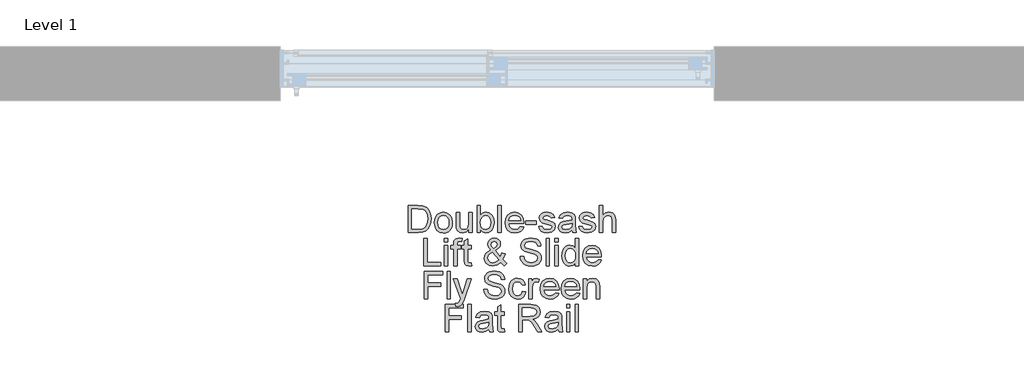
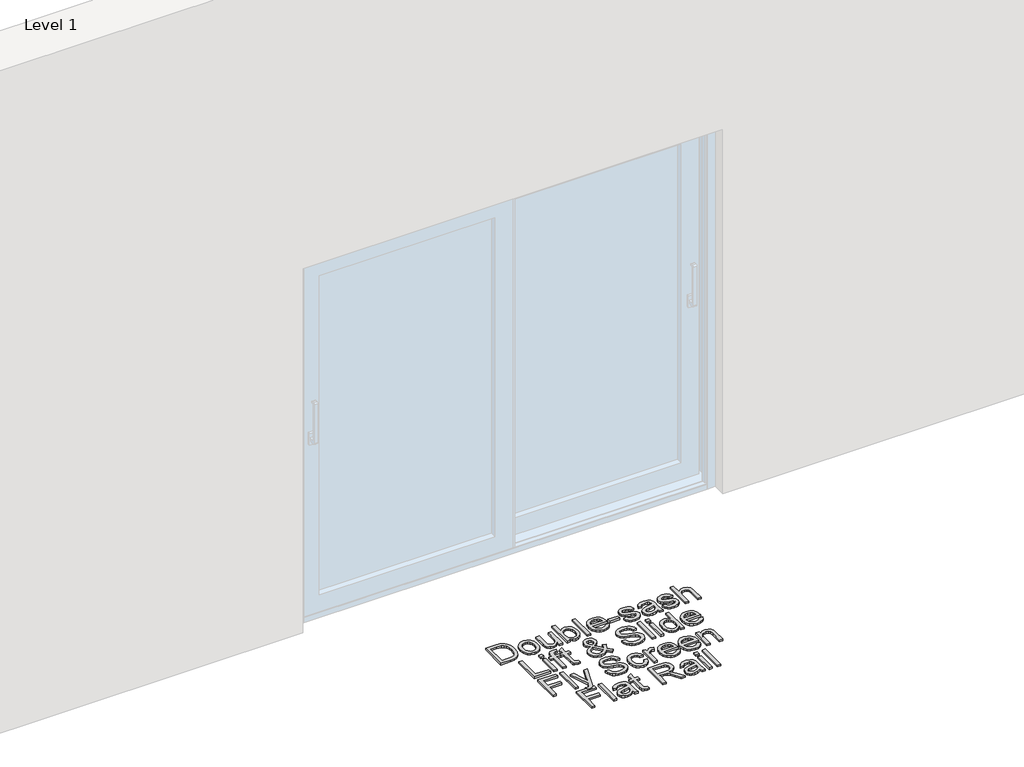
# One storey, part 3 of 7: 1 proxy.
"""IFC4 building model written with IfcOpenShell, lengths in millimetres."""

from ifc_helpers import new_model, si_unit, origin, origin_with_axes, place, context, project, spatial, polyline, outline, extrude, element, save

model = new_model("IFC4")

# Units and contexts
model_context = context("Model", 3, world=origin())
ifc_project = project(units=[si_unit("LENGTHUNIT", "METRE", prefix="MILLI")], contexts=[model_context])

# Site, building, storey
site = spatial("IfcSite", under=ifc_project)
building = spatial("IfcBuilding", under=site)
storey = spatial("IfcBuildingStorey", under=building, Name="Level 1", Elevation=0.0)

# Proxy
placement = place(None, origin())
element("IfcBuildingElementProxy", 1, Name="150mm Arial", ObjectType="150mm Arial", at=placement, inside=storey, context=model_context, shape_type="SweptSolid", body=[
    extrude(outline(polyline([(2688.4009515, -897.6627533), (2688.4009515, -746.9782881), (2740.3826774, -746.9782881), (2767.2748513, -749.1487919), (2789.4213474, -759.9277343), (2799.8416049, -771.4056526), (2807.2636242, -785.679474), (2811.7057993, -802.4732871), (2813.1865243, -821.5111803), (2809.1766105, -851.9166272), (2798.8759147, -873.8607883), (2785.1171281, -887.5276044), (2767.1093044, -895.0875794), (2742.884275, -897.6627533), (2688.4009515, -897.6627533)]), holes=[polyline([(2707.2365097, -878.8271952), (2740.5666184, -878.8271952), (2764.8100419, -876.1048684), (2778.7895577, -868.4161347), (2790.2490819, -849.7093353), (2794.3509661, -821.2168747), (2792.3414107, -800.6890594), (2786.3127445, -785.5323212), (2777.4054017, -775.1212607), (2766.7598165, -768.8304786), (2740.0515836, -765.8138463), (2707.2365097, -765.8138463), (2707.2365097, -878.8271952)])]), origin_with_axes(), (0.0, 0.0, 1.0), 10.0),
    extrude(outline(polyline([(2832.0220824, -842.3333013), (2836.0963755, -815.6526596), (2848.3192548, -796.8998749), (2863.4208107, -787.712022), (2881.5022108, -784.6494044), (2901.2896636, -788.3788081), (2917.0947938, -799.5670193), (2927.4552705, -817.3311212), (2930.9087627, -840.7881969), (2929.3820525, -859.8168931), (2924.8019216, -874.3022466), (2917.3017274, -885.150167), (2907.0148272, -893.2665635), (2894.7965464, -898.3295395), (2881.5022108, -900.0171981), (2861.4756347, -896.30159), (2845.6888986, -885.1547655), (2835.4387865, -867.0181831), (2832.0220824, -842.3333013)]), holes=[polyline([(2850.8576406, -842.2965131), (2853.0373414, -859.343245), (2859.5764439, -871.4879494), (2869.4172873, -878.7582173), (2881.5022108, -881.18164), (2893.531952, -878.7444217), (2903.3544013, -871.4327671), (2909.8935038, -859.1271143), (2912.0732046, -841.7079019), (2909.8797082, -825.1578106), (2903.299219, -813.1786531), (2893.4629742, -805.9083852), (2881.5022108, -803.4849626), (2869.4172873, -805.8991882), (2859.5764439, -813.141865), (2853.0373414, -825.2589782), (2850.8576406, -842.2965131)])]), origin_with_axes(), (0.0, 0.0, 1.0), 10.0),
    extrude(outline(polyline([(3022.7321087, -897.6627533), (3022.7321087, -878.6432542), (3007.9800407, -894.6737121), (2988.7398124, -900.0171981), (2971.0262943, -896.2648018), (2958.8126121, -886.8470227), (2953.2024117, -872.9778715), (2952.0987657, -855.4666885), (2952.0987657, -787.0038492), (2970.9343238, -787.0038492), (2970.9343238, -846.6007324), (2972.074758, -865.8041726), (2979.5243684, -877.0797557), (2993.5590665, -881.18164), (3009.2860218, -876.9877852), (3019.6786882, -865.5650493), (3022.7321087, -844.5773814), (3022.7321087, -787.0038492), (3041.5676669, -787.0038492), (3041.5676669, -897.6627533), (3022.7321087, -897.6627533)])), origin_with_axes(), (0.0, 0.0, 1.0), 10.0),
    extrude(outline(polyline([(3086.3021175, -897.6627533), (3067.4665594, -897.6627533), (3067.4665594, -746.9782881), (3086.3021175, -746.9782881), (3086.3021175, -802.8595632), (3099.490687, -789.2019441), (3115.8798299, -784.6494044), (3134.7521763, -788.7512887), (3149.3938797, -800.2843892), (3158.3885945, -818.2186365), (3161.6443501, -840.6778323), (3158.2736313, -865.8225667), (3148.161475, -884.5293661), (3133.322035, -896.1452401), (3115.7694653, -900.0171981), (3099.0216375, -895.0232), (3086.3021175, -880.0412058), (3086.3021175, -897.6627533)]), holes=[polyline([(3086.3021175, -841.5607491), (3087.5897045, -857.2693103), (3091.4524654, -867.9010999), (3101.3209, -877.861505), (3114.1507845, -881.18164), (3125.0216975, -878.7352247), (3134.3107179, -871.3959789), (3140.6842734, -859.2098878), (3142.808792, -842.2229367), (3140.7716454, -824.9876652), (3134.6602058, -812.9395299), (3125.6608925, -805.8486044), (3114.9601249, -803.4849626), (3104.089212, -805.9313778), (3094.8001916, -813.2706236), (3088.426636, -825.2359855), (3086.3021175, -841.5607491)])]), origin_with_axes(), (0.0, 0.0, 1.0), 10.0),
    extrude(outline(polyline([(3182.834353, -897.6627533), (3182.834353, -746.9782881), (3201.6699112, -746.9782881), (3201.6699112, -897.6627533), (3182.834353, -897.6627533)])), origin_with_axes(), (0.0, 0.0, 1.0), 10.0),
    extrude(outline(polyline([(3307.3991966, -864.7005266), (3325.8668728, -867.0549713), (3319.2128072, -880.9701078), (3308.5948131, -891.3719712), (3294.2520138, -897.8558914), (3276.4235326, -900.0171981), (3254.3230218, -896.2877944), (3237.3176765, -885.0995832), (3226.4743547, -867.1791315), (3222.8599141, -843.2530063), (3226.5111429, -818.5221391), (3237.4648293, -800.0268718), (3254.2402483, -788.4937713), (3275.3566748, -784.6494044), (3295.8155123, -788.4845742), (3312.1632684, -799.9900836), (3322.8824301, -818.4485627), (3326.455484, -843.1426417), (3326.3451194, -848.2194132), (3241.6954723, -848.2194132), (3244.9558265, -862.3184907), (3252.529597, -872.6835659), (3263.4602908, -879.0571214), (3276.7914146, -881.18164), (3295.2590908, -877.2453026), (3307.3991966, -864.7005266)]), holes=[polyline([(3241.6954723, -829.383855), (3307.6199258, -829.383855), (3305.072343, -819.4326471), (3300.0783449, -812.3141305), (3289.0970674, -805.6922545), (3275.2830984, -803.4849626), (3262.5865711, -805.2461976), (3252.0881386, -810.5299028), (3244.7902796, -818.765861), (3241.6954723, -829.383855)])]), origin_with_axes(), (0.0, 0.0, 1.0), 10.0),
    extrude(outline(polyline([(3335.873263, -852.9283027), (3335.873263, -834.0927446), (3394.7343823, -834.0927446), (3394.7343823, -852.9283027), (3335.873263, -852.9283027)])), origin_with_axes(), (0.0, 0.0, 1.0), 10.0),
    extrude(outline(polyline([(3408.8610509, -864.7005266), (3427.696609, -862.3460818), (3430.6672561, -870.4026975), (3436.4154123, -876.3255976), (3456.3914047, -881.18164), (3475.5948448, -876.7302678), (3481.8488387, -866.2824192), (3480.2761432, -861.4815591), (3475.5580566, -857.8211333), (3456.1706755, -852.4500561), (3427.8069736, -843.2346122), (3415.4277445, -832.4740638), (3411.2154956, -817.2805374), (3414.60001, -803.2458393), (3423.8338481, -792.5220791), (3435.808407, -786.9486669), (3452.0136089, -784.6494044), (3474.9326572, -788.3466185), (3489.5007842, -798.3530087), (3495.9755073, -815.2571864), (3477.1399492, -817.6116312), (3470.0582208, -807.2189648), (3453.4851369, -803.4849626), (3435.4589191, -807.0534179), (3430.0510538, -815.367551), (3432.295134, -820.8489927), (3439.3216801, -825.0060593), (3455.5452761, -829.015973), (3483.191608, -837.8819291), (3496.0306896, -847.9251076), (3500.6843969, -864.2958564), (3495.2213492, -882.3220741), (3479.4576058, -895.4002791), (3456.1338873, -900.0171981), (3437.1419793, -897.791512), (3423.2820251, -891.1144538), (3414.0297929, -880.0595999), (3408.8610509, -864.7005266)])), origin_with_axes(), (0.0, 0.0, 1.0), 10.0),
    extrude(outline(polyline([(3592.5077429, -883.5360847), (3574.2424018, -896.30159), (3554.0640744, -900.0171981), (3538.3233235, -897.782315), (3526.712048, -891.0776656), (3519.5521447, -880.8965314), (3517.1655103, -868.2321937), (3520.7707538, -853.3329729), (3530.2437152, -842.5172423), (3543.4322847, -836.3368247), (3559.7294571, -833.5041334), (3592.3973783, -827.0294103), (3592.5077429, -822.8355555), (3591.2109588, -814.4294519), (3587.3206067, -808.9296161), (3578.6201976, -804.846126), (3566.4984858, -803.4849626), (3547.4421985, -807.1086002), (3538.3555132, -819.966076), (3519.519955, -817.6116312), (3527.6685412, -799.2175314), (3544.0760782, -788.438589), (3568.926507, -784.6494044), (3591.7535848, -787.9971306), (3604.6478487, -796.4032342), (3610.423596, -809.1871335), (3611.343301, -825.6682469), (3611.343301, -849.10233), (3612.2997942, -881.8254334), (3616.0521906, -897.6627533), (3597.2166324, -897.6627533), (3592.5077429, -883.5360847)]), holes=[polyline([(3592.5077429, -845.8649684), (3562.1206901, -851.6407157), (3545.9154882, -854.6941363), (3538.5762424, -859.6605432), (3536.0010684, -866.9078185), (3541.6112688, -877.0981498), (3558.0739881, -881.18164), (3577.1302755, -876.6750855), (3589.4175341, -865.7673844), (3592.3973783, -851.1992574), (3592.5077429, -845.8649684)])]), origin_with_axes(), (0.0, 0.0, 1.0), 10.0),
    extrude(outline(polyline([(3630.1788592, -864.7005266), (3649.0144173, -862.3460818), (3651.9850644, -870.4026975), (3657.7332206, -876.3255976), (3677.709213, -881.18164), (3696.9126531, -876.7302678), (3703.166647, -866.2824192), (3701.5939515, -861.4815591), (3696.8758649, -857.8211333), (3677.4884838, -852.4500561), (3649.1247819, -843.2346122), (3636.7455528, -832.4740638), (3632.5333039, -817.2805374), (3635.9178183, -803.2458393), (3645.1516564, -792.5220791), (3657.1262153, -786.9486669), (3673.3314172, -784.6494044), (3696.2504655, -788.3466185), (3710.8185925, -798.3530087), (3717.2933156, -815.2571864), (3698.4577575, -817.6116312), (3691.3760291, -807.2189648), (3674.8029452, -803.4849626), (3656.7767274, -807.0534179), (3651.3688621, -815.367551), (3653.6129423, -820.8489927), (3660.6394884, -825.0060593), (3676.8630844, -829.015973), (3704.5094163, -837.8819291), (3717.3484979, -847.9251076), (3722.0022052, -864.2958564), (3716.5391575, -882.3220741), (3700.7754141, -895.4002791), (3677.4516956, -900.0171981), (3658.4597876, -897.791512), (3644.5998334, -891.1144538), (3635.3476012, -880.0595999), (3630.1788592, -864.7005266)])), origin_with_axes(), (0.0, 0.0, 1.0), 10.0),
    extrude(outline(polyline([(3743.1922081, -897.6627533), (3743.1922081, -746.9782881), (3762.0277662, -746.9782881), (3762.0277662, -802.3813166), (3776.7154549, -789.0823825), (3794.806052, -784.6494044), (3815.9592667, -789.4870527), (3828.7983484, -802.8595632), (3832.6611093, -827.6180215), (3832.6611093, -897.6627533), (3813.8255512, -897.6627533), (3813.8255512, -829.567796), (3812.326432, -817.7771781), (3807.8290746, -809.7021683), (3800.5817993, -805.039264), (3790.8329265, -803.4849626), (3775.4002768, -807.6788173), (3765.0995809, -819.046371), (3762.0277662, -838.8752105), (3762.0277662, -897.6627533), (3743.1922081, -897.6627533)])), origin_with_axes(), (0.0, 0.0, 1.0), 10.0),
    extrude(outline(polyline([(2773.1609632, -1080.6249801), (2773.1609632, -929.9405149), (2791.9965214, -929.9405149), (2791.9965214, -1061.789422), (2867.338754, -1061.789422), (2867.338754, -1080.6249801), (2773.1609632, -1080.6249801)])), origin_with_axes(), (0.0, 0.0, 1.0), 10.0),
    extrude(outline(polyline([(2886.1743121, -948.776073), (2886.1743121, -929.9405149), (2905.0098703, -929.9405149), (2905.0098703, -948.776073), (2886.1743121, -948.776073)])), origin_with_axes(), (0.0, 0.0, 1.0), 10.0),
    extrude(outline(polyline([(2886.1743121, -1080.6249801), (2886.1743121, -969.966076), (2905.0098703, -969.966076), (2905.0098703, -1080.6249801), (2886.1743121, -1080.6249801)])), origin_with_axes(), (0.0, 0.0, 1.0), 10.0),
    extrude(outline(polyline([(2937.9720971, -1080.6249801), (2937.9720971, -988.8016341), (2921.4909837, -988.8016341), (2921.4909837, -969.966076), (2937.9720971, -969.966076), (2937.9720971, -958.8192515), (2939.9586598, -943.1106903), (2949.5971681, -931.8902895), (2968.5798791, -927.5860701), (2985.7599682, -929.6462093), (2983.0008533, -947.3045451), (2972.1483344, -946.4216283), (2960.2841401, -949.5486252), (2956.8076552, -961.2104845), (2956.8076552, -969.966076), (2977.9976581, -969.966076), (2977.9976581, -988.8016341), (2956.8076552, -988.8016341), (2956.8076552, -1080.6249801), (2937.9720971, -1080.6249801)])), origin_with_axes(), (0.0, 0.0, 1.0), 10.0),
    extrude(outline(polyline([(3034.5043326, -1064.9164189), (3036.8587774, -1081.1768031), (3022.7688969, -1082.9794249), (3006.9867593, -1079.8524279), (2999.1140847, -1071.6486594), (2996.8332163, -1050.2747155), (2996.8332163, -988.8016341), (2982.7065477, -988.8016341), (2982.7065477, -969.966076), (2996.8332163, -969.966076), (2996.8332163, -943.0739021), (3015.6687744, -932.0006541), (3015.6687744, -969.966076), (3034.5043326, -969.966076), (3034.5043326, -988.8016341), (3015.6687744, -988.8016341), (3015.6687744, -1049.7228925), (3016.6620558, -1059.4349772), (3019.8810233, -1062.8746738), (3026.3005641, -1064.1438667), (3034.5043326, -1064.9164189)])), origin_with_axes(), (0.0, 0.0, 1.0), 10.0),
    extrude(outline(polyline([(3198.6164906, -1062.0101512), (3178.6404983, -1077.7371064), (3155.2799916, -1082.9794249), (3134.4946589, -1079.0982698), (3118.4917921, -1067.4548047), (3110.2420383, -1054.054703), (3107.4921204, -1039.1646793), (3109.7040109, -1025.9669127), (3116.3396824, -1014.1119154), (3127.3715437, -1003.6088844), (3142.7720038, -994.4670168), (3129.6202224, -975.4107295), (3126.3276786, -961.2840609), (3128.9212467, -948.5645409), (3136.7019508, -937.6292486), (3148.4097953, -930.0968647), (3162.7847843, -927.5860701), (3176.4607975, -929.9865001), (3187.3960898, -937.1877902), (3194.5697887, -947.7552005), (3196.9610217, -960.2539913), (3195.1905896, -970.7478252), (3189.8792933, -980.4507128), (3168.634108, -997.4836492), (3195.8941639, -1031.4391574), (3204.024356, -1010.5802482), (3222.8599141, -1014.6637384), (3209.5425859, -1045.6761906), (3232.2776932, -1068.4848743), (3218.1510246, -1082.9794249), (3198.6164906, -1062.0101512)]), holes=[polyline([(3159.1059644, -985.6010608), (3174.5937964, -973.9208074), (3178.1254635, -962.8291653), (3173.4717563, -951.0017591), (3161.8282911, -946.4216283), (3149.9273086, -950.9649709), (3145.1632367, -962.0566131), (3146.7819175, -968.9544005), (3151.6747481, -976.6247401), (3159.1059644, -985.6010608)]), polyline([(3185.9981382, -1048.4353055), (3152.3737238, -1006.4599699), (3131.6803616, -1022.2421075), (3126.3276786, -1036.6630817), (3128.1578915, -1045.5474319), (3133.6485303, -1054.7628758), (3142.4960923, -1061.798619), (3154.3970748, -1064.1438667), (3171.7059227, -1059.766071), (3185.9981382, -1048.4353055)])]), origin_with_axes(), (0.0, 0.0, 1.0), 10.0),
    extrude(outline(polyline([(3305.265481, -1028.8271952), (3324.1010392, -1028.8271952), (3330.1710921, -1047.6811474), (3344.9967365, -1059.6005241), (3367.584691, -1064.1438667), (3387.2663778, -1060.7041701), (3399.9767007, -1051.2496028), (3404.1521613, -1038.6128563), (3401.0251644, -1026.8590265), (3388.222871, -1018.3057701), (3360.7972682, -1011.1136771), (3331.2747381, -1001.8246567), (3315.2534772, -987.8083527), (3309.9743706, -969.0831592), (3311.6068469, -958.0512978), (3316.504276, -947.7643976), (3324.5378991, -939.0455943), (3335.5789574, -932.7180239), (3363.5012009, -927.5860701), (3393.2996425, -932.9571472), (3404.7223784, -939.5882202), (3413.1652702, -948.7392848), (3418.5087562, -959.840124), (3420.6332747, -972.3205207), (3401.7977166, -972.3205207), (3398.3396258, -961.0817258), (3391.1291387, -952.9699278), (3379.8627526, -948.0587031), (3364.2369649, -946.4216283), (3348.2432951, -948.040309), (3337.2712146, -952.8963514), (3330.9252502, -960.0424591), (3328.8099287, -968.5313362), (3330.3090479, -975.7694144), (3334.8064053, -981.591147), (3365.56134, -992.1125721), (3398.8914488, -1001.5671393), (3409.6290045, -1008.4005474), (3417.1200017, -1016.8342421), (3421.52079, -1026.7762531), (3422.9877195, -1038.1346097), (3421.3000608, -1049.7458851), (3416.2370849, -1060.6673819), (3408.0057252, -1070.0667668), (3396.8129155, -1077.1117071), (3383.353033, -1081.5124954), (3368.320455, -1082.9794249), (3349.8665744, -1081.3975323), (3334.6776466, -1076.6518546), (3322.5789274, -1068.7239976), (3313.3956731, -1057.5955672), (3307.5003642, -1044.0391157), (3305.265481, -1028.8271952)])), origin_with_axes(), (0.0, 0.0, 1.0), 10.0),
    extrude(outline(polyline([(3448.886612, -1080.6249801), (3448.886612, -929.9405149), (3467.7221701, -929.9405149), (3467.7221701, -1080.6249801), (3448.886612, -1080.6249801)])), origin_with_axes(), (0.0, 0.0, 1.0), 10.0),
    extrude(outline(polyline([(3495.9755073, -948.776073), (3495.9755073, -929.9405149), (3514.8110655, -929.9405149), (3514.8110655, -948.776073), (3495.9755073, -948.776073)])), origin_with_axes(), (0.0, 0.0, 1.0), 10.0),
    extrude(outline(polyline([(3495.9755073, -1080.6249801), (3495.9755073, -969.966076), (3514.8110655, -969.966076), (3514.8110655, -1080.6249801), (3495.9755073, -1080.6249801)])), origin_with_axes(), (0.0, 0.0, 1.0), 10.0),
    extrude(outline(polyline([(3611.343301, -1080.6249801), (3611.343301, -1062.8562797), (3598.8812984, -1077.9486386), (3581.655224, -1082.9794249), (3569.47833, -1081.158409), (3558.3315055, -1075.6953614), (3548.8953323, -1066.9719596), (3541.8503921, -1055.3698811), (3537.4633993, -1041.3581756), (3536.0010684, -1025.4058926), (3541.3905396, -995.42351), (3548.1227802, -983.5317245), (3557.5405592, -974.7853301), (3568.9311055, -969.4050559), (3581.5816476, -967.6116312), (3598.9456778, -972.743585), (3611.343301, -986.0793073), (3611.343301, -929.9405149), (3630.1788592, -929.9405149), (3630.1788592, -1080.6249801), (3611.343301, -1080.6249801)]), holes=[polyline([(3554.8366266, -1025.3323162), (3556.9611451, -1042.3698511), (3563.3347007, -1054.4869644), (3572.5961299, -1061.7296411), (3583.3842694, -1064.1438667), (3594.1678104, -1061.8400057), (3603.1947148, -1054.9284227), (3609.3061545, -1043.2803591), (3611.343301, -1026.767056), (3609.2693663, -1008.7132471), (3603.047562, -996.1960622), (3593.7907313, -988.8844076), (3582.6117172, -986.4471893), (3571.7132131, -988.7878385), (3562.7828777, -995.8097861), (3556.8231893, -1007.871717), (3554.8366266, -1025.3323162)])]), origin_with_axes(), (0.0, 0.0, 1.0), 10.0),
    extrude(outline(polyline([(3735.9081446, -1047.6627533), (3754.3758208, -1050.0171981), (3747.7217552, -1063.9323346), (3737.1037611, -1074.334198), (3722.7609618, -1080.8181182), (3704.9324806, -1082.9794249), (3682.8319697, -1079.2500212), (3665.8266245, -1068.06181), (3654.9833027, -1050.1413583), (3651.3688621, -1026.215233), (3655.0200909, -1001.4843659), (3665.9737773, -982.9890986), (3682.7491963, -971.455998), (3703.8656228, -967.6116312), (3724.3244603, -971.446801), (3740.6722164, -982.9523104), (3751.3913781, -1001.4107895), (3754.9644319, -1026.1048684), (3754.8540673, -1031.18164), (3670.2044203, -1031.18164), (3673.4647744, -1045.2807174), (3681.038545, -1055.6457926), (3691.9692388, -1062.0193482), (3705.3003626, -1064.1438667), (3723.7680388, -1060.2075294), (3735.9081446, -1047.6627533)]), holes=[polyline([(3670.2044203, -1012.3460818), (3736.1288738, -1012.3460818), (3733.581291, -1002.3948738), (3728.5872929, -995.2763572), (3717.6060153, -988.6544813), (3703.7920464, -986.4471893), (3691.0955191, -988.2084244), (3680.5970866, -993.4921296), (3673.2992275, -1001.7280877), (3670.2044203, -1012.3460818)])]), origin_with_axes(), (0.0, 0.0, 1.0), 10.0),
    extrude(outline(polyline([(2776.6926304, -1263.5872069), (2776.6926304, -1112.9027417), (2877.9337554, -1112.9027417), (2877.9337554, -1131.7382998), (2795.5281885, -1131.7382998), (2795.5281885, -1176.4727504), (2866.1615316, -1176.4727504), (2866.1615316, -1195.3083086), (2795.5281885, -1195.3083086), (2795.5281885, -1263.5872069), (2776.6926304, -1263.5872069)])), origin_with_axes(), (0.0, 0.0, 1.0), 10.0),
    extrude(outline(polyline([(2901.4782031, -1263.5872069), (2901.4782031, -1112.9027417), (2920.3137613, -1112.9027417), (2920.3137613, -1263.5872069), (2901.4782031, -1263.5872069)])), origin_with_axes(), (0.0, 0.0, 1.0), 10.0),
    extrude(outline(polyline([(2948.5670985, -1305.9672127), (2946.2126537, -1287.8306304), (2955.7775856, -1289.4860993), (2964.7171181, -1287.4075661), (2970.1985598, -1281.6134246), (2975.3489078, -1267.7442734), (2976.8204357, -1263.1825367), (2936.7948747, -1152.9283027), (2956.6605024, -1152.9283027), (2977.8872935, -1214.3645959), (2985.2817216, -1238.9391132), (2992.6761497, -1217.2340755), (3014.4915521, -1152.9283027), (3034.210027, -1152.9283027), (2995.6927821, -1266.2359572), (2985.6863918, -1290.8104745), (2974.7602966, -1304.0910145), (2960.081805, -1308.3216575), (2948.5670985, -1305.9672127)])), origin_with_axes(), (0.0, 0.0, 1.0), 10.0),
    extrude(outline(polyline([(3103.9604533, -1211.789422), (3122.7960114, -1211.789422), (3128.8660644, -1230.6433742), (3143.6917088, -1242.5627509), (3166.2796633, -1247.1060935), (3185.96135, -1243.6663968), (3198.6716729, -1234.2118296), (3202.8471336, -1221.575083), (3199.7201366, -1209.8212533), (3186.9178432, -1201.2679969), (3159.4922404, -1194.0759039), (3129.9697103, -1184.7868835), (3113.9484494, -1170.7705795), (3108.6693428, -1152.0453859), (3110.3018192, -1141.0135246), (3115.1992482, -1130.7266243), (3123.2328713, -1122.007821), (3134.2739297, -1115.6802507), (3162.1961731, -1110.5482969), (3191.9946147, -1115.919374), (3203.4173507, -1122.550447), (3211.8602425, -1131.7015116), (3217.2037284, -1142.8023508), (3219.328247, -1155.2827475), (3200.4926888, -1155.2827475), (3197.0345981, -1144.0439525), (3189.824111, -1135.9321546), (3178.5577248, -1131.0209299), (3162.9319371, -1129.383855), (3146.9382674, -1131.0025358), (3135.9661869, -1135.8585782), (3129.6202224, -1143.0046859), (3127.504901, -1151.4935629), (3129.0040201, -1158.7316412), (3133.5013775, -1164.5533738), (3164.2563123, -1175.0747988), (3197.5864211, -1184.5293661), (3208.3239768, -1191.3627742), (3215.8149739, -1199.7964689), (3220.2157623, -1209.7384798), (3221.6826917, -1221.0968364), (3219.9950331, -1232.7081119), (3214.9320571, -1243.6296086), (3206.7006975, -1253.0289936), (3195.5078878, -1260.0739338), (3182.0480053, -1264.4747222), (3167.0154273, -1265.9416516), (3148.5615467, -1264.3597591), (3133.3726188, -1259.6140813), (3121.2738997, -1251.6862243), (3112.0906454, -1240.557794), (3106.1953364, -1227.0013425), (3103.9604533, -1211.789422)])), origin_with_axes(), (0.0, 0.0, 1.0), 10.0),
    extrude(outline(polyline([(3318.2149273, -1223.5616458), (3337.0504854, -1225.9160906), (3331.7989699, -1242.6685169), (3321.9305354, -1255.3282561), (3308.3740839, -1263.2883028), (3292.0585174, -1265.9416516), (3272.0227442, -1262.2398391), (3256.3555698, -1251.1344013), (3246.2434134, -1233.1127821), (3242.8726947, -1208.662425), (3244.312033, -1191.9008016), (3248.6300479, -1177.3740613), (3255.8957173, -1165.6432242), (3266.1780191, -1157.2693103), (3278.4790733, -1152.247721), (3291.801, -1150.573858), (3307.7164948, -1152.8731204), (3320.4406133, -1159.7709078), (3329.5686853, -1170.8993382), (3334.6960407, -1185.8905295), (3315.8604825, -1188.2449743), (3307.1232851, -1174.1366998), (3291.9481528, -1169.4094161), (3279.7758573, -1171.7362697), (3270.1143564, -1178.7168306), (3263.8097787, -1190.7281777), (3261.7082528, -1208.1473902), (3263.7637935, -1225.8011274), (3269.9304154, -1237.8538613), (3279.4171724, -1244.7930354), (3291.433118, -1247.1060935), (3301.1865894, -1245.6621567), (3309.1834243, -1241.3303462), (3315.0005583, -1234.0002974), (3318.2149273, -1223.5616458)])), origin_with_axes(), (0.0, 0.0, 1.0), 10.0),
    extrude(outline(polyline([(3353.5315988, -1263.5872069), (3353.5315988, -1152.9283027), (3370.0127122, -1152.9283027), (3370.0127122, -1169.2990515), (3381.7113596, -1154.2158897), (3393.4835835, -1150.573858), (3412.392718, -1156.3863935), (3406.1019359, -1173.2721771), (3392.8581841, -1169.4094161), (3382.2080003, -1173.1250243), (3375.4205775, -1183.4257201), (3372.367157, -1205.4250634), (3372.367157, -1263.5872069), (3353.5315988, -1263.5872069)])), origin_with_axes(), (0.0, 0.0, 1.0), 10.0),
    extrude(outline(polyline([(3501.6408901, -1230.6249801), (3520.1085662, -1232.9794249), (3513.4545006, -1246.8945613), (3502.8365065, -1257.2964248), (3488.4937073, -1263.7803449), (3470.6652261, -1265.9416516), (3448.5647152, -1262.2122479), (3431.55937, -1251.0240367), (3420.7160482, -1233.1035851), (3417.1016076, -1209.1774598), (3420.7528364, -1184.4465927), (3431.7065228, -1165.9513254), (3448.4819418, -1154.4182248), (3469.5983683, -1150.573858), (3490.0572057, -1154.4090278), (3506.4049619, -1165.9145372), (3517.1241235, -1184.3730163), (3520.6971774, -1209.0670952), (3520.5868128, -1214.1438667), (3435.9371657, -1214.1438667), (3439.1975199, -1228.2429442), (3446.7712905, -1238.6080194), (3457.7019843, -1244.981575), (3471.0331081, -1247.1060935), (3489.5007842, -1243.1697561), (3501.6408901, -1230.6249801)]), holes=[polyline([(3435.9371657, -1195.3083086), (3501.8616193, -1195.3083086), (3499.3140364, -1185.3571006), (3494.3200384, -1178.238584), (3483.3387608, -1171.6167081), (3469.5247919, -1169.4094161), (3456.8282645, -1171.1706512), (3446.3298321, -1176.4543563), (3439.031973, -1184.6903145), (3435.9371657, -1195.3083086)])]), origin_with_axes(), (0.0, 0.0, 1.0), 10.0),
    extrude(outline(polyline([(3617.0086838, -1230.6249801), (3635.4763599, -1232.9794249), (3628.8222943, -1246.8945613), (3618.2043002, -1257.2964248), (3603.8615009, -1263.7803449), (3586.0330198, -1265.9416516), (3563.9325089, -1262.2122479), (3546.9271637, -1251.0240367), (3536.0838419, -1233.1035851), (3532.4694013, -1209.1774598), (3536.1206301, -1184.4465927), (3547.0743165, -1165.9513254), (3563.8497354, -1154.4182248), (3584.966162, -1150.573858), (3605.4249994, -1154.4090278), (3621.7727556, -1165.9145372), (3632.4919172, -1184.3730163), (3636.0649711, -1209.0670952), (3635.9546065, -1214.1438667), (3551.3049594, -1214.1438667), (3554.5653136, -1228.2429442), (3562.1390842, -1238.6080194), (3573.069778, -1244.981575), (3586.4009018, -1247.1060935), (3604.8685779, -1243.1697561), (3617.0086838, -1230.6249801)]), holes=[polyline([(3551.3049594, -1195.3083086), (3617.2294129, -1195.3083086), (3614.6818301, -1185.3571006), (3609.687832, -1178.238584), (3598.7065545, -1171.6167081), (3584.8925856, -1169.4094161), (3572.1960582, -1171.1706512), (3561.6976258, -1176.4543563), (3554.3997667, -1184.6903145), (3551.3049594, -1195.3083086)])]), origin_with_axes(), (0.0, 0.0, 1.0), 10.0),
    extrude(outline(polyline([(3654.9005293, -1263.5872069), (3654.9005293, -1152.9283027), (3673.7360874, -1152.9283027), (3673.7360874, -1168.3793465), (3688.1386675, -1155.0252301), (3707.8019602, -1150.573858), (3725.5890546, -1154.1607074), (3737.7291605, -1163.5784865), (3743.3761491, -1177.4292436), (3744.3694305, -1195.6394024), (3744.3694305, -1263.5872069), (3725.5338723, -1263.5872069), (3725.5338723, -1198.1777881), (3723.3633686, -1181.5127338), (3715.693029, -1172.70196), (3702.7619768, -1169.4094161), (3691.7301155, -1171.2580231), (3682.326132, -1176.8038442), (3675.8835986, -1187.5184073), (3673.7360874, -1204.8732404), (3673.7360874, -1263.5872069), (3654.9005293, -1263.5872069)])), origin_with_axes(), (0.0, 0.0, 1.0), 10.0),
    extrude(outline(polyline([(2890.8832017, -1446.5494336), (2890.8832017, -1295.8649684), (2992.1243267, -1295.8649684), (2992.1243267, -1314.7005266), (2909.7187598, -1314.7005266), (2909.7187598, -1359.4349772), (2980.3521029, -1359.4349772), (2980.3521029, -1378.2705353), (2909.7187598, -1378.2705353), (2909.7187598, -1446.5494336), (2890.8832017, -1446.5494336)])), origin_with_axes(), (0.0, 0.0, 1.0), 10.0),
    extrude(outline(polyline([(3015.6687744, -1446.5494336), (3015.6687744, -1295.8649684), (3034.5043326, -1295.8649684), (3034.5043326, -1446.5494336), (3015.6687744, -1446.5494336)])), origin_with_axes(), (0.0, 0.0, 1.0), 10.0),
    extrude(outline(polyline([(3133.3910129, -1432.422765), (3115.1256718, -1445.1882703), (3094.9473444, -1448.9038784), (3079.2065935, -1446.6689953), (3067.5953181, -1439.9643459), (3060.4354147, -1429.7832117), (3058.0487803, -1417.118874), (3061.6540238, -1402.2196532), (3071.1269852, -1391.4039226), (3084.3155547, -1385.223505), (3100.6127271, -1382.3908137), (3133.2806483, -1375.9160906), (3133.3910129, -1371.7222358), (3132.0942289, -1363.3161322), (3128.2038768, -1357.8162964), (3119.5034676, -1353.7328063), (3107.3817558, -1352.3716429), (3088.3254685, -1355.9952805), (3079.2387832, -1368.8527563), (3060.403225, -1366.4983115), (3068.5518112, -1348.1042117), (3084.9593482, -1337.3252693), (3109.809777, -1333.5360847), (3132.6368548, -1336.8838109), (3145.5311187, -1345.2899145), (3151.3068661, -1358.0738138), (3152.226571, -1374.5549272), (3152.226571, -1397.9890103), (3153.1830642, -1430.7121138), (3156.9354606, -1446.5494336), (3138.0999024, -1446.5494336), (3133.3910129, -1432.422765)]), holes=[polyline([(3133.3910129, -1394.7516487), (3103.0039601, -1400.527396), (3086.7987582, -1403.5808166), (3079.4595124, -1408.5472235), (3076.8843384, -1415.7944988), (3082.4945389, -1425.9848301), (3098.9572581, -1430.0683203), (3118.0135455, -1425.5617658), (3130.3008041, -1414.6540647), (3133.2806483, -1400.0859377), (3133.3910129, -1394.7516487)])]), origin_with_axes(), (0.0, 0.0, 1.0), 10.0),
    extrude(outline(polyline([(3218.1510246, -1430.8408725), (3220.5054693, -1447.1012566), (3206.4155889, -1448.9038784), (3190.6334513, -1445.7768815), (3182.7607766, -1437.573113), (3180.4799083, -1416.199169), (3180.4799083, -1354.7260876), (3166.3532397, -1354.7260876), (3166.3532397, -1335.8905295), (3180.4799083, -1335.8905295), (3180.4799083, -1308.9983556), (3199.3154664, -1297.9251076), (3199.3154664, -1335.8905295), (3218.1510246, -1335.8905295), (3218.1510246, -1354.7260876), (3199.3154664, -1354.7260876), (3199.3154664, -1415.6473461), (3200.3087478, -1425.3594307), (3203.5277153, -1428.7991274), (3209.9472561, -1430.0683203), (3218.1510246, -1430.8408725)])), origin_with_axes(), (0.0, 0.0, 1.0), 10.0),
    extrude(outline(polyline([(3298.2021467, -1446.5494336), (3298.2021467, -1295.8649684), (3363.1333189, -1295.8649684), (3393.2812484, -1299.9300645), (3402.5610717, -1305.558659), (3409.7623618, -1314.3142505), (3414.3838793, -1325.1713679), (3415.9243852, -1337.1045401), (3413.3722038, -1351.9485786), (3405.7156598, -1364.2542313), (3392.7248269, -1373.2765373), (3374.1697787, -1378.2705353), (3384.8751448, -1386.327151), (3400.1422476, -1405.7145322), (3425.2685879, -1446.5494336), (3403.3796092, -1446.5494336), (3383.7714988, -1415.3162523), (3369.608042, -1394.6412841), (3359.656834, -1384.8740172), (3350.6989074, -1381.2871677), (3339.7728122, -1380.6249801), (3317.0377049, -1380.6249801), (3317.0377049, -1446.5494336), (3298.2021467, -1446.5494336)]), holes=[polyline([(3317.0377049, -1361.789422), (3359.1969815, -1361.789422), (3380.6996841, -1359.1222775), (3392.9133664, -1350.5874152), (3397.088827, -1337.8035159), (3395.0976657, -1328.615663), (3389.1241818, -1321.2120379), (3378.8464786, -1316.3284044), (3363.9426593, -1314.7005266), (3317.0377049, -1314.7005266), (3317.0377049, -1361.789422)])]), origin_with_axes(), (0.0, 0.0, 1.0), 10.0),
    extrude(outline(polyline([(3517.1655103, -1432.422765), (3498.9001692, -1445.1882703), (3478.7218418, -1448.9038784), (3462.9810909, -1446.6689953), (3451.3698154, -1439.9643459), (3444.2099121, -1429.7832117), (3441.8232776, -1417.118874), (3445.4285212, -1402.2196532), (3454.9014826, -1391.4039226), (3468.0900521, -1385.223505), (3484.3872245, -1382.3908137), (3517.0551457, -1375.9160906), (3517.1655103, -1371.7222358), (3515.8687262, -1363.3161322), (3511.9783741, -1357.8162964), (3503.2779649, -1353.7328063), (3491.1562532, -1352.3716429), (3472.0999659, -1355.9952805), (3463.0132806, -1368.8527563), (3444.1777224, -1366.4983115), (3452.3263086, -1348.1042117), (3468.7338456, -1337.3252693), (3493.5842744, -1333.5360847), (3516.4113522, -1336.8838109), (3529.3056161, -1345.2899145), (3535.0813634, -1358.0738138), (3536.0010684, -1374.5549272), (3536.0010684, -1397.9890103), (3536.9575616, -1430.7121138), (3540.709958, -1446.5494336), (3521.8743998, -1446.5494336), (3517.1655103, -1432.422765)]), holes=[polyline([(3517.1655103, -1394.7516487), (3486.7784575, -1400.527396), (3470.5732556, -1403.5808166), (3463.2340098, -1408.5472235), (3460.6588358, -1415.7944988), (3466.2690362, -1425.9848301), (3482.7317555, -1430.0683203), (3501.7880429, -1425.5617658), (3514.0753015, -1414.6540647), (3517.0551457, -1400.0859377), (3517.1655103, -1394.7516487)])]), origin_with_axes(), (0.0, 0.0, 1.0), 10.0),
    extrude(outline(polyline([(3561.8999609, -1314.7005266), (3561.8999609, -1295.8649684), (3580.735519, -1295.8649684), (3580.735519, -1314.7005266), (3561.8999609, -1314.7005266)])), origin_with_axes(), (0.0, 0.0, 1.0), 10.0),
    extrude(outline(polyline([(3561.8999609, -1446.5494336), (3561.8999609, -1335.8905295), (3580.735519, -1335.8905295), (3580.735519, -1446.5494336), (3561.8999609, -1446.5494336)])), origin_with_axes(), (0.0, 0.0, 1.0), 10.0),
    extrude(outline(polyline([(3608.9888563, -1446.5494336), (3608.9888563, -1295.8649684), (3627.8244144, -1295.8649684), (3627.8244144, -1446.5494336), (3608.9888563, -1446.5494336)])), origin_with_axes(), (0.0, 0.0, 1.0), 10.0),
])

save(model, "model.ifc")
